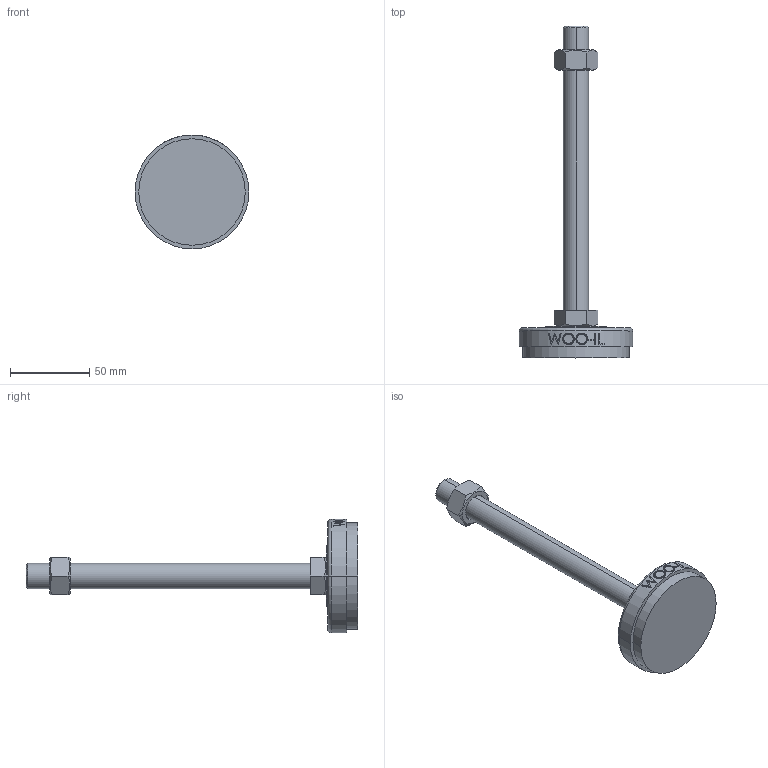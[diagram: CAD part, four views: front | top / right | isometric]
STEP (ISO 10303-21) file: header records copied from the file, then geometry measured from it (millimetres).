
FILE_DESCRIPTION (( 'STEP AP214' ), '1' );
FILE_NAME ('NS72-M16-180.step', '2021-01-11T05:47:37', ( '' ), ( '' ), 'SwSTEP 2.0', 'SolidWorks 2019', '' );
FILE_SCHEMA (( 'AUTOMOTIVE_DESIGN' ));
Length unit declared in the file: millimetre
Products named in the file (2): NS72-M16-180
Bounding box: 72 x 210 x 72 mm (x, y, z)
Volume: 119654.4 mm3; surface area: 25304.4 mm2
Topology: 3 solids, 3 shells, 96 faces, 223 edges, 144 vertices
Faces by surface type: plane 48, cylinder 18, bspline 16, cone 12, torus 2
Entity records: 4262 total; most frequent: CARTESIAN_POINT 2137, ORIENTED_EDGE 446, DIRECTION 381, EDGE_CURVE 223, VERTEX_POINT 144, AXIS2_PLACEMENT_3D 142, EDGE_LOOP 109, LINE 97
